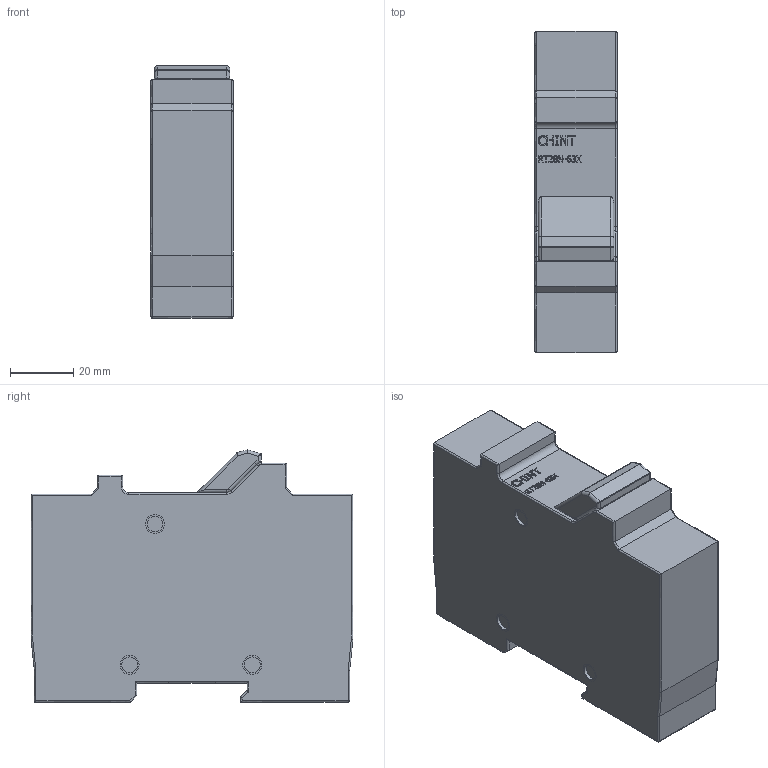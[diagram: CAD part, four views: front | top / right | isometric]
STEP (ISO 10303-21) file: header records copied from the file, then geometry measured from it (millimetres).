
FILE_DESCRIPTION(/* description */ (''),/* implementation_level */ '2;1');
FILE_NAME(/* name */ 'D:\CHINT\RT28\Вставки цил RT28N-63X (CHINT).stp',/* time_stamp */ '2017-09-30T16:07:53+04:00',/* author */ ('RSagdiev'),/* organization */ (''),/* preprocessor_version */ 'ST-DEVELOPER v16.5',/* originating_system */ 'Autodesk Inventor 2017',/* authorisation */ '');
FILE_SCHEMA (('AUTOMOTIVE_DESIGN { 1 0 10303 214 3 1 1 }'));
Length unit declared in the file: millimetre
Products named in the file (1): Вставки цил 
RT28N-63X (CHINT)
Bounding box: 26 x 102 x 80.01 mm (x, y, z)
Volume: 177039.6 mm3; surface area: 24780.8 mm2
Topology: 8 solids, 8 shells, 384 faces, 948 edges, 596 vertices
Faces by surface type: plane 181, bspline 131, cylinder 65, torus 7
Full cylindrical faces by diameter (mm): 5 x6, 6 x12
Entity records: 13118 total; most frequent: CARTESIAN_POINT 4828, ORIENTED_EDGE 1844, DIRECTION 1324, EDGE_CURVE 922, VERTEX_POINT 596, LINE 588, VECTOR 588, EDGE_LOOP 438
